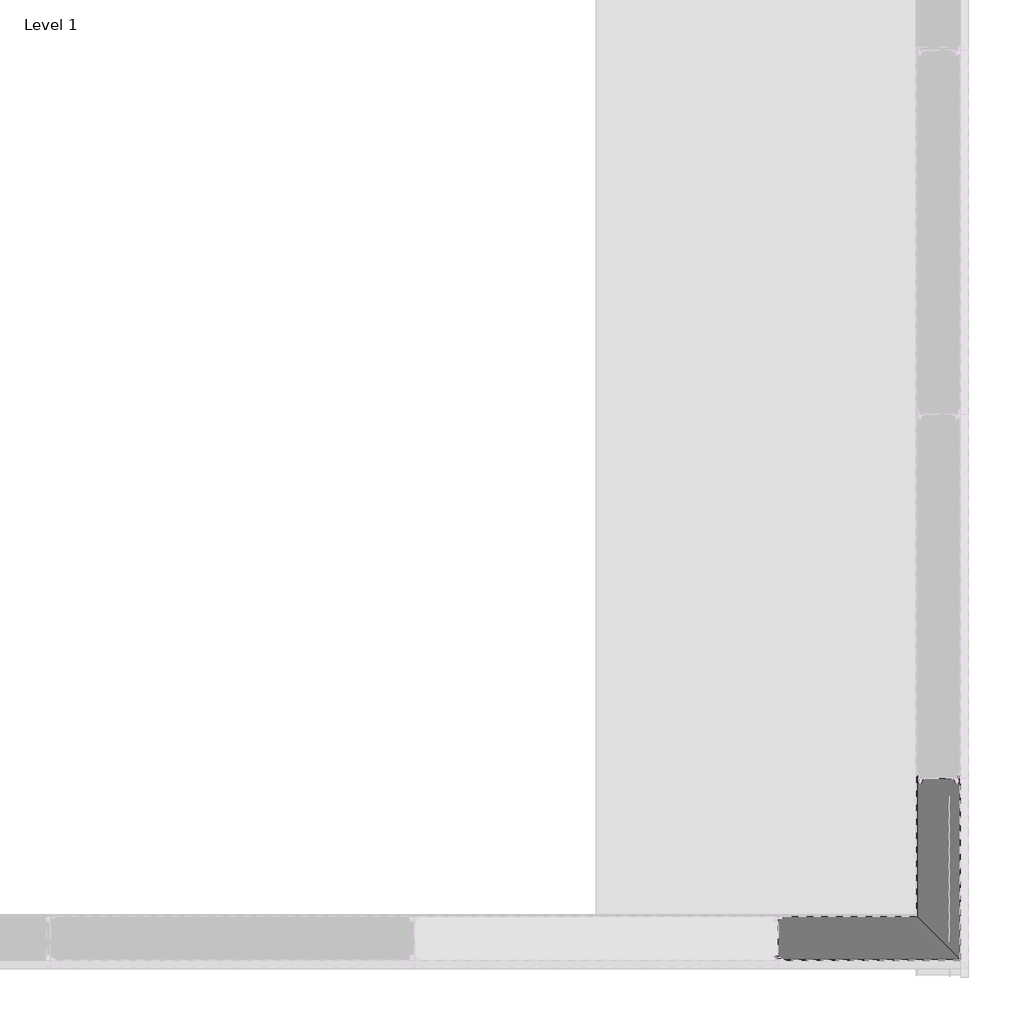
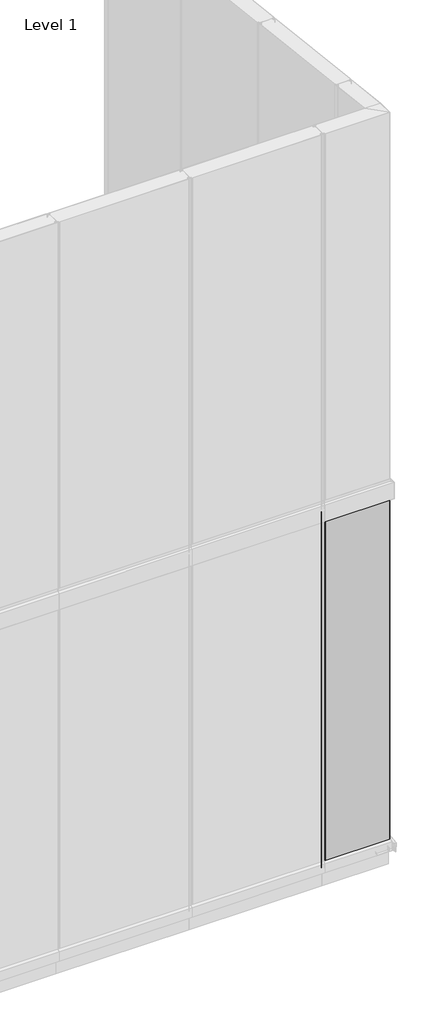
# One storey, part 5 of 16: 1 plate.
"""IFC4 building model written with IfcOpenShell, lengths in millimetres."""

from ifc_helpers import new_model, si_unit, point, frame, frame_2d, origin, place, context, project, spatial, polyline, circle_curve, ellipse_curve, trimmed, segment, composite_curve, outline, extrude, element, save
from ifc_brep_helpers import plane_surface, cylinder_surface, revolved_surface, advanced_brep

model = new_model("IFC4")

# Units and contexts
model_context = context("Model", 3, world=origin())
ifc_project = project(units=[si_unit("LENGTHUNIT", "METRE", prefix="MILLI")], contexts=[model_context])

# Site, building, storey
site = spatial("IfcSite", under=ifc_project)
building = spatial("IfcBuilding", under=site)
storey = spatial("IfcBuildingStorey", under=building, Name="Level 1", Elevation=0.0)

# Plate
placement = place(None, origin())
element("IfcPlate", 1, ObjectType="TR_C_V_FTV_Corner_Long_B : 120/RAL9006/RAL9002", at=placement, inside=storey, context=model_context, shape_type="SolidModel", body=[
    extrude(outline(composite_curve([segment(polyline([(-493.9155071, 4072.7199449), (-493.9155071, 4068.6069121), (-494.7155071, 4068.6069121), (-494.7155071, 4072.7199449)]), True, "CONTINUOUS"), segment(trimmed(circle_curve(frame_2d((-498.4655071, 4072.7199449)), 3.75), [point((-494.7155071, 4072.7199449))], [point((-497.8143265, 4076.412974))], True, "CARTESIAN"), True, "CONTINUOUS"), segment(polyline([(-497.8143265, 4076.412974), (-502.0298637, 4077.1562869)]), True, "CONTINUOUS"), segment(trimmed(circle_curve(frame_2d((-501.4655071, 4080.3569121)), 3.25), [point((-502.0298637, 4077.1562869))], [point((-501.4655071, 4083.6069121))], False, "CARTESIAN"), True, "CONTINUOUS"), segment(polyline([(-501.4655071, 4083.6069121), (-486.7155071, 4083.6069121)]), True, "CONTINUOUS"), segment(trimmed(circle_curve(frame_2d((-486.7155071, 4086.1069121)), 2.5), [point((-486.7155071, 4083.6069121))], [point((-484.9477402, 4084.3391452))], True, "CARTESIAN"), True, "CONTINUOUS"), segment(polyline([(-484.9477402, 4084.3391452), (-480.5586529, 4088.7282325)]), True, "CONTINUOUS"), segment(trimmed(circle_curve(frame_2d((-478.4373325, 4086.6069121)), 3.0), [point((-480.5586529, 4088.7282325))], [point((-478.4373325, 4089.6069121))], False, "CARTESIAN"), True, "CONTINUOUS"), segment(polyline([(-478.4373325, 4089.6069121), (-114.1155057, 4089.6069121), (-113.3155057, 4088.8069121), (-478.4373325, 4088.8069121)]), True, "CONTINUOUS"), segment(trimmed(circle_curve(frame_2d((-478.4373325, 4086.6069121)), 2.2), [point((-478.4373325, 4088.8069121))], [point((-479.9929674, 4088.162547))], True, "CARTESIAN"), True, "CONTINUOUS"), segment(polyline([(-479.9929674, 4088.162547), (-484.3820547, 4083.7734598)]), True, "CONTINUOUS"), segment(trimmed(circle_curve(frame_2d((-486.7155071, 4086.1069121)), 3.3), [point((-484.3820547, 4083.7734598))], [point((-486.7155071, 4082.8069121))], False, "CARTESIAN"), True, "CONTINUOUS"), segment(polyline([(-486.7155071, 4082.8069121), (-501.4655071, 4082.8069121)]), True, "CONTINUOUS"), segment(trimmed(circle_curve(frame_2d((-501.4655071, 4080.3569121)), 2.45), [point((-501.4655071, 4082.8069121))], [point((-501.8909452, 4077.9441331))], True, "CARTESIAN"), True, "CONTINUOUS"), segment(polyline([(-501.8909452, 4077.9441331), (-497.6754079, 4077.2008202)]), True, "CONTINUOUS"), segment(trimmed(circle_curve(frame_2d((-498.4655071, 4072.7199449)), 4.55), [point((-497.6754079, 4077.2008202))], [point((-493.9155071, 4072.7199449))], False, "CARTESIAN"), True, "CONTINUOUS")], self_intersect=False)), frame((0.0, 0.0, 150.0), z_axis=(0.0, 0.0, 1.0), x_axis=(1.0, 0.0, 0.0)), (0.0, 0.0, 1.0), 2830.0),
    extrude(outline(composite_curve([segment(trimmed(circle_curve(frame_2d((-498.465507, 3986.4938794)), 4.55), [point((-493.915507, 3986.4938794))], [point((-497.6754078, 3982.0130041))], False, "CARTESIAN"), True, "CONTINUOUS"), segment(polyline([(-497.6754078, 3982.0130041), (-501.890945, 3981.2696911)]), True, "CONTINUOUS"), segment(trimmed(circle_curve(frame_2d((-501.465507, 3978.8569121)), 2.45), [point((-501.890945, 3981.2696911))], [point((-501.465507, 3976.4069121))], True, "CARTESIAN"), True, "CONTINUOUS"), segment(polyline([(-501.465507, 3976.4069121), (-486.715507, 3976.4069121)]), True, "CONTINUOUS"), segment(trimmed(circle_curve(frame_2d((-486.715507, 3973.1069121)), 3.3), [point((-486.715507, 3976.4069121))], [point((-484.3820546, 3975.4403645))], False, "CARTESIAN"), True, "CONTINUOUS"), segment(polyline([(-484.3820546, 3975.4403645), (-479.9929673, 3971.0512772)]), True, "CONTINUOUS"), segment(trimmed(circle_curve(frame_2d((-478.4373324, 3972.6069121)), 2.2), [point((-479.9929673, 3971.0512772))], [point((-478.4373324, 3970.4069121))], True, "CARTESIAN"), True, "CONTINUOUS"), segment(polyline([(-478.4373324, 3970.4069121), (5.0844943, 3970.4069121), (5.8844942, 3969.6069121), (-478.4373324, 3969.6069121)]), True, "CONTINUOUS"), segment(trimmed(circle_curve(frame_2d((-478.4373324, 3972.6069121)), 3.0), [point((-478.4373324, 3969.6069121))], [point((-480.5586527, 3970.4855918))], False, "CARTESIAN"), True, "CONTINUOUS"), segment(polyline([(-480.5586527, 3970.4855918), (-484.94774, 3974.8746791)]), True, "CONTINUOUS"), segment(trimmed(circle_curve(frame_2d((-486.715507, 3973.1069121)), 2.5), [point((-484.94774, 3974.8746791))], [point((-486.715507, 3975.6069121))], True, "CARTESIAN"), True, "CONTINUOUS"), segment(polyline([(-486.715507, 3975.6069121), (-501.465507, 3975.6069121)]), True, "CONTINUOUS"), segment(trimmed(circle_curve(frame_2d((-501.465507, 3978.8569121)), 3.25), [point((-501.465507, 3975.6069121))], [point((-502.0298635, 3982.0575373))], False, "CARTESIAN"), True, "CONTINUOUS"), segment(polyline([(-502.0298635, 3982.0575373), (-497.8143263, 3982.8008503)]), True, "CONTINUOUS"), segment(trimmed(circle_curve(frame_2d((-498.465507, 3986.4938794)), 3.75), [point((-497.8143263, 3982.8008503))], [point((-494.715507, 3986.4938794))], True, "CARTESIAN"), True, "CONTINUOUS"), segment(polyline([(-494.715507, 3986.4938794), (-494.715507, 3990.6069121), (-493.915507, 3990.6069121), (-493.915507, 3986.4938794)]), True, "CONTINUOUS")], self_intersect=False)), frame((0.0, 0.0, 150.0), z_axis=(0.0, 0.0, 1.0), x_axis=(1.0, 0.0, 0.0)), (0.0, 0.0, 1.0), 2830.0),
    advanced_brep(
    [(-11.7229468, 4468.006911, 2980.0), (-15.1155057, 4468.006911, 2980.0), (-15.1155057, 4467.206911, 2980.0), (-11.7229468, 4467.206911, 2980.0), (-8.8177639, 4464.7691731, 2980.0), (-7.7509386, 4458.7189062, 2980.0), (0.6844943, 4459.456911, 2980.0), (0.6844943, 4477.056911, 2980.0), (2.6476671, 4477.8700838, 2980.0), (4.5133526, 4476.0043983, 2980.0), (5.0844943, 4474.6255401, 2980.0), (5.0844943, 3970.4069121, 2980.0), (5.8844943, 3969.606912, 2980.0), (5.8844943, 4474.6255401, 2980.0), (5.079038, 4476.5700838, 2980.0), (3.2133526, 4478.4357692, 2980.0), (-0.1155057, 4477.056911, 2980.0), (-0.1155057, 4459.456911, 2980.0), (-6.9630924, 4458.8578247, 2980.0), (-8.0299177, 4464.9080916, 2980.0), (5.8844943, 3969.606912, 150.0), (5.0844943, 3970.4069121, 150.0), (5.0844943, 4089.6069121, 150.0), (5.8844943, 4089.6069121, 150.0), (-11.7229468, 4468.006911, 193.9999999), (-15.1155057, 4468.006911, 193.9999999), (-15.1155057, 4467.206911, 193.9069766), (-11.7229468, 4467.206911, 193.9069766), (-8.8177639, 4464.7691731, 193.6235187), (-7.7509386, 4458.7189062, 192.9199993), (0.6844943, 4459.456911, 193.0058138), (0.6844943, 4477.056911, 195.0523254), (2.6476671, 4477.8700838, 195.1468804), (4.5133526, 4476.0043983, 194.9299403), (5.0844943, 4474.6255401, 194.7696079), (5.8844943, 4474.6255401, 194.7696079), (5.079038, 4476.5700838, 194.9957176), (3.2133526, 4478.4357692, 195.2126578), (-0.1155057, 4477.056911, 195.0523254), (-0.1155057, 4459.456911, 193.0058138), (-6.9630924, 4458.8578247, 192.9361526), (-8.0299177, 4464.9080916, 193.639672)],
    [
        (0, 1),
        (1, 2),
        (2, 3),
        (3, 4, circle_curve(frame((-11.7229468, 4464.256911, 2980.0), z_axis=(0.0, 0.0, -1.0), x_axis=(0.0, 1.0, 0.0)), 2.95)),
        (4, 5),
        (5, 6, circle_curve(frame((-3.5655057, 4459.456911, 2980.0), z_axis=(0.0, 0.0, 1.0), x_axis=(0.0, 1.0, 0.0)), 4.25)),
        (6, 7),
        (7, 8, circle_curve(frame((1.8344943, 4477.056911, 2980.0), z_axis=(0.0, 0.0, -1.0), x_axis=(0.0, 1.0, 0.0)), 1.15)),
        (8, 9),
        (9, 10, circle_curve(frame((3.1344943, 4474.6255401, 2980.0), z_axis=(0.0, 0.0, -1.0), x_axis=(0.0, 1.0, 0.0)), 1.95)),
        (10, 11),
        (11, 12),
        (12, 13),
        (13, 14, circle_curve(frame((3.1344943, 4474.6255401, 2980.0), z_axis=(0.0, 0.0, 1.0), x_axis=(0.0, 1.0, 0.0)), 2.75)),
        (14, 15),
        (15, 16, circle_curve(frame((1.8344943, 4477.056911, 2980.0), z_axis=(0.0, 0.0, 1.0), x_axis=(0.0, 1.0, 0.0)), 1.95)),
        (16, 17),
        (17, 18, circle_curve(frame((-3.5655057, 4459.456911, 2980.0), z_axis=(0.0, 0.0, -1.0), x_axis=(0.0, 1.0, 0.0)), 3.45)),
        (18, 19),
        (19, 0, circle_curve(frame((-11.7229468, 4464.256911, 2980.0), z_axis=(0.0, 0.0, 1.0), x_axis=(0.0, 1.0, 0.0)), 3.75)),
        (20, 21),
        (21, 22),
        (22, 23),
        (23, 20),
        (0, 24),
        (24, 25),
        (25, 1),
        (25, 26),
        (26, 2),
        (26, 27),
        (27, 3),
        (27, 28, ellipse_curve(frame((-11.7229468, 4464.256911, 193.5639534), z_axis=(0.0, 0.11550085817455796, -0.9933073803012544), x_axis=(0.0, -0.9933073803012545, -0.11550085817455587)), 2.9698763, 2.95)),
        (28, 4),
        (28, 29),
        (29, 5),
        (29, 30, ellipse_curve(frame((-3.5655057, 4459.456911, 193.0058138), z_axis=(0.0, -0.11550085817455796, 0.9933073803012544), x_axis=(0.0, 0.9933073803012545, 0.11550085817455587)), 4.2786353, 4.25)),
        (30, 6),
        (30, 31),
        (31, 7),
        (31, 32, ellipse_curve(frame((1.8344943, 4477.056911, 195.0523254), z_axis=(0.0, 0.11550085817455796, -0.9933073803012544), x_axis=(0.0, -0.9933073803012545, -0.11550085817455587)), 1.1577484, 1.15)),
        (32, 8),
        (32, 33),
        (33, 9),
        (33, 34, ellipse_curve(frame((3.1344943, 4474.6255401, 194.7696079), z_axis=(0.0, 0.11550085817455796, -0.9933073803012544), x_axis=(0.0, -0.9933073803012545, -0.11550085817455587)), 1.9631385, 1.95)),
        (34, 10),
        (34, 22),
        (21, 11),
        (20, 12),
        (23, 35),
        (35, 13),
        (35, 36, ellipse_curve(frame((3.1344943, 4474.6255401, 194.7696079), z_axis=(0.0, -0.11550085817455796, 0.9933073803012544), x_axis=(0.0, 0.9933073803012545, 0.11550085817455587)), 2.7685287, 2.75)),
        (36, 14),
        (36, 37),
        (37, 15),
        (37, 38, ellipse_curve(frame((1.8344943, 4477.056911, 195.0523254), z_axis=(0.0, -0.11550085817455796, 0.9933073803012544), x_axis=(0.0, 0.9933073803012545, 0.11550085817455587)), 1.9631385, 1.95)),
        (38, 16),
        (38, 39),
        (39, 17),
        (39, 40, ellipse_curve(frame((-3.5655057, 4459.456911, 193.0058138), z_axis=(0.0, 0.11550085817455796, -0.9933073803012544), x_axis=(0.0, -0.9933073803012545, -0.11550085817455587)), 3.4732451, 3.45)),
        (40, 18),
        (40, 41),
        (41, 19),
        (41, 24, ellipse_curve(frame((-11.7229468, 4464.256911, 193.5639534), z_axis=(0.0, -0.11550085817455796, 0.9933073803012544), x_axis=(0.0, 0.9933073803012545, 0.11550085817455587)), 3.7752664, 3.75)),
    ],
    [
        plane_surface(frame((-15.1155057, 4468.006911, 2980.0), z_axis=(0.0, 0.0, 1.0), x_axis=(-1.0, 0.0, 0.0))),
        plane_surface(frame((-15.1155057, 4468.006911, 150.0), z_axis=(0.0, 0.0, -1.0), x_axis=(1.0, 0.0, 0.0))),
        plane_surface(frame((-11.7229468, 4468.006911, 2980.0), z_axis=(0.0, 1.0, 0.0), x_axis=(0.0, 0.0, -1.0))),
        plane_surface(frame((-15.1155057, 4468.006911, 2980.0), z_axis=(-1.0, 0.0, 0.0), x_axis=(0.0, 0.0, -1.0))),
        plane_surface(frame((-15.1155057, 4467.206911, 2980.0), z_axis=(0.0, -1.0, 0.0), x_axis=(0.0, 0.0, -1.0))),
        revolved_surface(polyline([(-11.7229468, 4467.206911, 193.22093013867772), (-11.7229468, 4467.206911, 2980.0)]), (-11.7229468, 4464.256911, 150.0), (0.0, 0.0, -1.0)),
        plane_surface(frame((-8.8177639, 4464.7691731, 2980.0), z_axis=(-0.9848077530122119, -0.173648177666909, 0.0), x_axis=(0.0, 0.0, -1.0))),
        cylinder_surface(frame((-3.5655057, 4459.456911, 150.0), z_axis=(0.0, 0.0, 1.0), x_axis=(0.0, 1.0, 0.0)), 4.25),
        plane_surface(frame((0.6844943, 4459.456911, 2980.0), z_axis=(1.0, 0.0, 0.0), x_axis=(0.0, 0.0, -1.0))),
        revolved_surface(polyline([(1.8344943, 4478.206910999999, 194.91860446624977), (1.8344943, 4478.206910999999, 2980.0)]), (1.8344943, 4477.056911, 150.0), (0.0, 0.0, -1.0)),
        plane_surface(frame((2.6476671, 4477.8700838, 2980.0), z_axis=(-0.7071067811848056, -0.7071067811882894, 0.0), x_axis=(0.0, 0.0, -1.0))),
        revolved_surface(polyline([(3.1344943, 4476.5755401, 194.5428637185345), (3.1344943, 4476.5755401, 2980.0)]), (3.1344943, 4474.6255401, 150.0), (0.0, 0.0, -1.0)),
        plane_surface(frame((5.0844943, 4474.6255401, 2980.0), z_axis=(-1.0, 0.0, 0.0), x_axis=(0.0, 0.0, -1.0))),
        plane_surface(frame((5.0844943, 3970.4069121, 2980.0), z_axis=(-0.7071068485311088, -0.7071067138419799, 0.0), x_axis=(0.0, 0.0, -1.0))),
        plane_surface(frame((5.8844943, 3969.606912, 2980.0), z_axis=(1.0, 0.0, 0.0), x_axis=(0.0, 0.0, -1.0))),
        cylinder_surface(frame((3.1344943, 4474.6255401, 150.0), z_axis=(0.0, 0.0, 1.0), x_axis=(0.0, 1.0, 0.0)), 2.75),
        plane_surface(frame((5.079038, 4476.5700838, 2980.0), z_axis=(0.7071067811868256, 0.7071067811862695, 0.0), x_axis=(0.0, 0.0, -1.0))),
        cylinder_surface(frame((1.8344943, 4477.056911, 150.0), z_axis=(0.0, 0.0, 1.0), x_axis=(0.0, 1.0, 0.0)), 1.95),
        plane_surface(frame((-0.1155057, 4477.056911, 2980.0), z_axis=(-1.0, 0.0, 0.0), x_axis=(0.0, 0.0, -1.0))),
        revolved_surface(polyline([(-3.5655057, 4462.906911, 192.60465101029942), (-3.5655057, 4462.906911, 2980.0)]), (-3.5655057, 4459.456911, 150.0), (0.0, 0.0, -1.0)),
        plane_surface(frame((-6.9630924, 4458.8578247, 2980.0), z_axis=(0.9848077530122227, 0.17364817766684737, 0.0), x_axis=(0.0, 0.0, -1.0))),
        cylinder_surface(frame((-11.7229468, 4464.256911, 150.0), z_axis=(0.0, 0.0, 1.0), x_axis=(0.0, 1.0, 0.0)), 3.75),
        plane_surface(frame((5.8844943, 6239.6069121, 400.0), z_axis=(0.0, 0.11550085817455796, -0.9933073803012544), x_axis=(0.0, 0.9933073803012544, 0.11550085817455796))),
    ],
    [
        (0, [[1, 2, 3, 4, 5, 6, 7, 8, 9, 10, 11, 12, 13, 14, 15, 16, 17, 18, 19, 20]]),
        (1, [[21, 22, 23, 24]]),
        (2, [[-1, 25, 26, 27]]),
        (3, [[-2, -27, 28, 29]]),
        (4, [[-3, -29, 30, 31]]),
        (5, [[-4, -31, 32, 33]]),
        (6, [[-5, -33, 34, 35]]),
        (7, [[-6, -35, 36, 37]]),
        (8, [[-7, -37, 38, 39]]),
        (9, [[-8, -39, 40, 41]]),
        (10, [[-9, -41, 42, 43]]),
        (11, [[-10, -43, 44, 45]]),
        (12, [[-11, -45, 46, -22, 47]]),
        (13, [[-12, -47, -21, 48]]),
        (14, [[-13, -48, -24, 49, 50]]),
        (15, [[-14, -50, 51, 52]]),
        (16, [[-15, -52, 53, 54]]),
        (17, [[-16, -54, 55, 56]]),
        (18, [[-17, -56, 57, 58]]),
        (19, [[-18, -58, 59, 60]]),
        (20, [[-19, -60, 61, 62]]),
        (21, [[-20, -62, 63, -25]]),
        (22, [[-23, -46, -44, -42, -40, -38, -36, -34, -32, -30, -28, -26, -63, -61, -59, -57, -55, -53, -51, -49]]),
    ],
),
    advanced_brep(
    [(-96.5080645, 4468.006911, 2980.0), (-100.2010936, 4464.9080916, 2980.0), (-101.2679189, 4458.8578247, 2980.0), (-108.1155057, 4459.456911, 2980.0), (-108.1155057, 4477.056911, 2980.0), (-111.4443639, 4478.4357692, 2980.0), (-113.3100493, 4476.5700838, 2980.0), (-114.1155057, 4474.6255401, 2980.0), (-114.1155057, 4089.6069121, 2980.0), (-113.3155057, 4088.8069121, 2980.0), (-113.3155057, 4474.6255401, 2980.0), (-112.7443639, 4476.0043983, 2980.0), (-110.8786785, 4477.8700838, 2980.0), (-108.9155057, 4477.056911, 2980.0), (-108.9155057, 4459.456911, 2980.0), (-100.4800727, 4458.7189062, 2980.0), (-99.4132474, 4464.7691731, 2980.0), (-96.5080645, 4467.206911, 2980.0), (-93.1155057, 4467.206911, 2980.0), (-93.1155057, 4468.006911, 2980.0), (-113.3155057, 4088.8069121, 150.0), (-114.1155057, 4089.6069121, 150.0), (-113.3155057, 4089.6069121, 150.0), (-96.5080645, 4468.006911, 193.9999999), (-100.2010936, 4464.9080916, 193.639672), (-101.2679189, 4458.8578247, 192.9361526), (-108.1155057, 4459.456911, 193.0058138), (-108.1155057, 4477.056911, 195.0523254), (-111.4443639, 4478.4357692, 195.2126578), (-113.3100493, 4476.5700838, 194.9957176), (-114.1155057, 4474.6255401, 194.7696079), (-113.3155057, 4474.6255401, 194.7696079), (-112.7443639, 4476.0043983, 194.9299403), (-110.8786785, 4477.8700838, 195.1468804), (-108.9155057, 4477.056911, 195.0523254), (-108.9155057, 4459.456911, 193.0058138), (-100.4800727, 4458.7189062, 192.9199993), (-99.4132474, 4464.7691731, 193.6235187), (-96.5080645, 4467.206911, 193.9069766), (-93.1155057, 4467.206911, 193.9069766), (-93.1155057, 4468.006911, 193.9999999)],
    [
        (0, 1, circle_curve(frame((-96.5080645, 4464.256911, 2980.0), z_axis=(0.0, 0.0, 1.0), x_axis=(0.0, 1.0, 0.0)), 3.75)),
        (1, 2),
        (2, 3, circle_curve(frame((-104.6655057, 4459.456911, 2980.0), z_axis=(0.0, 0.0, -1.0), x_axis=(0.0, 1.0, 0.0)), 3.45)),
        (3, 4),
        (4, 5, circle_curve(frame((-110.0655057, 4477.056911, 2980.0), z_axis=(0.0, 0.0, 1.0), x_axis=(0.0, 1.0, 0.0)), 1.95)),
        (5, 6),
        (6, 7, circle_curve(frame((-111.3655057, 4474.6255401, 2980.0), z_axis=(0.0, 0.0, 1.0), x_axis=(0.0, 1.0, 0.0)), 2.75)),
        (7, 8),
        (8, 9),
        (9, 10),
        (10, 11, circle_curve(frame((-111.3655057, 4474.6255401, 2980.0), z_axis=(0.0, 0.0, -1.0), x_axis=(0.0, 1.0, 0.0)), 1.95)),
        (11, 12),
        (12, 13, circle_curve(frame((-110.0655057, 4477.056911, 2980.0), z_axis=(0.0, 0.0, -1.0), x_axis=(0.0, 1.0, 0.0)), 1.15)),
        (13, 14),
        (14, 15, circle_curve(frame((-104.6655057, 4459.456911, 2980.0), z_axis=(0.0, 0.0, 1.0), x_axis=(0.0, 1.0, 0.0)), 4.25)),
        (15, 16),
        (16, 17, circle_curve(frame((-96.5080645, 4464.256911, 2980.0), z_axis=(0.0, 0.0, -1.0), x_axis=(0.0, 1.0, 0.0)), 2.95)),
        (17, 18),
        (18, 19),
        (19, 0),
        (20, 21),
        (21, 22),
        (22, 20),
        (0, 23),
        (23, 24, ellipse_curve(frame((-96.5080645, 4464.256911, 193.5639534), z_axis=(0.0, -0.11550085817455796, 0.9933073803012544), x_axis=(0.0, 0.9933073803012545, 0.11550085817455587)), 3.7752664, 3.75)),
        (24, 1),
        (24, 25),
        (25, 2),
        (25, 26, ellipse_curve(frame((-104.6655057, 4459.456911, 193.0058138), z_axis=(0.0, 0.11550085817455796, -0.9933073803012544), x_axis=(0.0, -0.9933073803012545, -0.11550085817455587)), 3.4732451, 3.45)),
        (26, 3),
        (26, 27),
        (27, 4),
        (27, 28, ellipse_curve(frame((-110.0655057, 4477.056911, 195.0523254), z_axis=(0.0, -0.11550085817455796, 0.9933073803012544), x_axis=(0.0, 0.9933073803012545, 0.11550085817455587)), 1.9631385, 1.95)),
        (28, 5),
        (28, 29),
        (29, 6),
        (29, 30, ellipse_curve(frame((-111.3655057, 4474.6255401, 194.7696079), z_axis=(0.0, -0.11550085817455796, 0.9933073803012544), x_axis=(0.0, 0.9933073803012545, 0.11550085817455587)), 2.7685287, 2.75)),
        (30, 7),
        (30, 21),
        (21, 8),
        (20, 9),
        (22, 31),
        (31, 10),
        (31, 32, ellipse_curve(frame((-111.3655057, 4474.6255401, 194.7696079), z_axis=(0.0, 0.11550085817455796, -0.9933073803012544), x_axis=(0.0, -0.9933073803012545, -0.11550085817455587)), 1.9631385, 1.95)),
        (32, 11),
        (32, 33),
        (33, 12),
        (33, 34, ellipse_curve(frame((-110.0655057, 4477.056911, 195.0523254), z_axis=(0.0, 0.11550085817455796, -0.9933073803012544), x_axis=(0.0, -0.9933073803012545, -0.11550085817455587)), 1.1577484, 1.15)),
        (34, 13),
        (34, 35),
        (35, 14),
        (35, 36, ellipse_curve(frame((-104.6655057, 4459.456911, 193.0058138), z_axis=(0.0, -0.11550085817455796, 0.9933073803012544), x_axis=(0.0, 0.9933073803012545, 0.11550085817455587)), 4.2786353, 4.25)),
        (36, 15),
        (36, 37),
        (37, 16),
        (37, 38, ellipse_curve(frame((-96.5080645, 4464.256911, 193.5639534), z_axis=(0.0, 0.11550085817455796, -0.9933073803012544), x_axis=(0.0, -0.9933073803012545, -0.11550085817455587)), 2.9698763, 2.95)),
        (38, 17),
        (38, 39),
        (39, 18),
        (39, 40),
        (40, 19),
        (40, 23),
    ],
    [
        plane_surface(frame((-96.5080645, 4468.006911, 2980.0), z_axis=(0.0, 0.0, 1.0), x_axis=(-1.0, 0.0, 0.0))),
        plane_surface(frame((-96.5080645, 4468.006911, 150.0), z_axis=(0.0, 0.0, -1.0), x_axis=(1.0, 0.0, 0.0))),
        cylinder_surface(frame((-96.5080645, 4464.256911, 150.0), z_axis=(0.0, 0.0, 1.0), x_axis=(0.0, 1.0, 0.0)), 3.75),
        plane_surface(frame((-100.2010936, 4464.9080916, 2980.0), z_axis=(-0.9848077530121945, 0.17364817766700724, 0.0), x_axis=(0.0, 0.0, -1.0))),
        revolved_surface(polyline([(-104.6655057, 4462.906911, 192.60465101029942), (-104.6655057, 4462.906911, 2980.0)]), (-104.6655057, 4459.456911, 150.0), (0.0, 0.0, -1.0)),
        plane_surface(frame((-108.1155057, 4459.456911, 2980.0), z_axis=(1.0, 0.0, 0.0), x_axis=(0.0, 0.0, -1.0))),
        cylinder_surface(frame((-110.0655057, 4477.056911, 150.0), z_axis=(0.0, 0.0, 1.0), x_axis=(0.0, 1.0, 0.0)), 1.95),
        plane_surface(frame((-111.4443639, 4478.4357692, 2980.0), z_axis=(-0.707106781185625, 0.7071067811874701, 0.0), x_axis=(0.0, 0.0, -1.0))),
        cylinder_surface(frame((-111.3655057, 4474.6255401, 150.0), z_axis=(0.0, 0.0, 1.0), x_axis=(0.0, 1.0, 0.0)), 2.75),
        plane_surface(frame((-114.1155057, 4474.6255401, 2980.0), z_axis=(-1.0, 0.0, 0.0), x_axis=(0.0, 0.0, -1.0))),
        plane_surface(frame((-114.1155057, 4089.6069121, 2980.0), z_axis=(-0.7071067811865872, -0.7071067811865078, 0.0), x_axis=(0.0, 0.0, -1.0))),
        plane_surface(frame((-113.3155057, 4088.8069121, 2980.0), z_axis=(1.0, 0.0, 0.0), x_axis=(0.0, 0.0, -1.0))),
        revolved_surface(polyline([(-111.3655057, 4476.5755401, 194.5428637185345), (-111.3655057, 4476.5755401, 2980.0)]), (-111.3655057, 4474.6255401, 150.0), (0.0, 0.0, -1.0)),
        plane_surface(frame((-112.7443639, 4476.0043983, 2980.0), z_axis=(0.7071067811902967, -0.7071067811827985, 0.0), x_axis=(0.0, 0.0, -1.0))),
        revolved_surface(polyline([(-110.0655057, 4478.206910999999, 194.91860446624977), (-110.0655057, 4478.206910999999, 2980.0)]), (-110.0655057, 4477.056911, 150.0), (0.0, 0.0, -1.0)),
        plane_surface(frame((-108.9155057, 4477.056911, 2980.0), z_axis=(-1.0, 0.0, 0.0), x_axis=(0.0, 0.0, -1.0))),
        cylinder_surface(frame((-104.6655057, 4459.456911, 150.0), z_axis=(0.0, 0.0, 1.0), x_axis=(0.0, 1.0, 0.0)), 4.25),
        plane_surface(frame((-100.4800727, 4458.7189062, 2980.0), z_axis=(0.9848077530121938, -0.17364817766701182, 0.0), x_axis=(0.0, 0.0, -1.0))),
        revolved_surface(polyline([(-96.5080645, 4467.206911, 193.22093013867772), (-96.5080645, 4467.206911, 2980.0)]), (-96.5080645, 4464.256911, 150.0), (0.0, 0.0, -1.0)),
        plane_surface(frame((-96.5080645, 4467.206911, 2980.0), z_axis=(0.0, -1.0, 0.0), x_axis=(0.0, 0.0, -1.0))),
        plane_surface(frame((-93.1155057, 4467.206911, 2980.0), z_axis=(1.0, 0.0, 0.0), x_axis=(0.0, 0.0, -1.0))),
        plane_surface(frame((-93.1155057, 4468.006911, 2980.0), z_axis=(0.0, 1.0, 0.0), x_axis=(0.0, 0.0, -1.0))),
        plane_surface(frame((5.8844943, 6239.6069121, 400.0), z_axis=(0.0, 0.11550085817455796, -0.9933073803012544), x_axis=(0.0, 0.9933073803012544, 0.11550085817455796))),
    ],
    [
        (0, [[1, 2, 3, 4, 5, 6, 7, 8, 9, 10, 11, 12, 13, 14, 15, 16, 17, 18, 19, 20]]),
        (1, [[21, 22, 23]]),
        (2, [[-1, 24, 25, 26]]),
        (3, [[-2, -26, 27, 28]]),
        (4, [[-3, -28, 29, 30]]),
        (5, [[-4, -30, 31, 32]]),
        (6, [[-5, -32, 33, 34]]),
        (7, [[-6, -34, 35, 36]]),
        (8, [[-7, -36, 37, 38]]),
        (9, [[-8, -38, 39, 40]]),
        (10, [[-9, -40, -21, 41]]),
        (11, [[-10, -41, -23, 42, 43]]),
        (12, [[-11, -43, 44, 45]]),
        (13, [[-12, -45, 46, 47]]),
        (14, [[-13, -47, 48, 49]]),
        (15, [[-14, -49, 50, 51]]),
        (16, [[-15, -51, 52, 53]]),
        (17, [[-16, -53, 54, 55]]),
        (18, [[-17, -55, 56, 57]]),
        (19, [[-18, -57, 58, 59]]),
        (20, [[-19, -59, 60, 61]]),
        (21, [[-20, -61, 62, -24]]),
        (22, [[-22, -39, -37, -35, -33, -31, -29, -27, -25, -62, -60, -58, -56, -54, -52, -50, -48, -46, -44, -42]]),
    ],
),
    extrude(outline(composite_curve([segment(polyline([(-494.1155061, 3976.4069121), (-494.1155061, 4082.8069121), (-486.715507, 4082.8069121)]), True, "CONTINUOUS"), segment(trimmed(circle_curve(frame_2d((-486.715507, 4086.1069121)), 3.3), [point((-486.715507, 4082.8069121))], [point((-484.3820546, 4083.7734598))], True, "CARTESIAN"), True, "CONTINUOUS"), segment(polyline([(-484.3820546, 4083.7734598), (-479.9929673, 4088.162547)]), True, "CONTINUOUS"), segment(trimmed(circle_curve(frame_2d((-478.4373324, 4086.6069121)), 2.2), [point((-479.9929673, 4088.162547))], [point((-478.4373324, 4088.8069121))], False, "CARTESIAN"), True, "CONTINUOUS"), segment(polyline([(-478.4373324, 4088.8069121), (-113.3155057, 4088.8069121), (5.0844943, 3970.4069121), (-478.4373324, 3970.4069121)]), True, "CONTINUOUS"), segment(trimmed(circle_curve(frame_2d((-478.4373324, 3972.6069121)), 2.2), [point((-478.4373324, 3970.4069121))], [point((-479.9929673, 3971.0512772))], False, "CARTESIAN"), True, "CONTINUOUS"), segment(polyline([(-479.9929673, 3971.0512772), (-484.3820546, 3975.4403645)]), True, "CONTINUOUS"), segment(trimmed(circle_curve(frame_2d((-486.715507, 3973.1069121)), 3.3), [point((-484.3820546, 3975.4403645))], [point((-486.715507, 3976.4069121))], True, "CARTESIAN"), True, "CONTINUOUS"), segment(polyline([(-486.715507, 3976.4069121), (-494.1155061, 3976.4069121)]), True, "CONTINUOUS")], self_intersect=False)), frame((0.0, 0.0, 150.0), z_axis=(0.0, 0.0, 1.0), x_axis=(1.0, 0.0, 0.0)), (0.0, 0.0, 1.0), 2830.0),
    advanced_brep(
    [(5.0844943, 3970.4069121, 2980.0), (5.0844943, 4455.206911, 2980.0), (-3.5655057, 4455.206911, 2980.0), (-7.7509386, 4458.7189062, 2980.0), (-8.8177639, 4464.7691731, 2980.0), (-11.7229468, 4467.206911, 2980.0), (-17.8155057, 4467.206911, 2980.0), (-17.8155057, 4469.6069121, 2980.0), (-90.4155057, 4469.6069121, 2980.0), (-90.4155057, 4467.206911, 2980.0), (-96.5080645, 4467.206911, 2980.0), (-99.4132474, 4464.7691731, 2980.0), (-100.4800727, 4458.7189062, 2980.0), (-104.6655057, 4455.206911, 2980.0), (-113.3155057, 4455.206911, 2980.0), (-113.3155057, 4088.8069121, 2980.0), (5.0844943, 3970.4069121, 150.0), (-113.3155057, 4088.8069121, 150.0), (-113.3155057, 4089.6069121, 150.0), (5.0844943, 4089.6069121, 150.0), (-113.3155057, 4455.206911, 192.5116278), (5.0844943, 4455.206911, 192.5116278), (-3.5655057, 4455.206911, 192.5116278), (-7.7509386, 4458.7189062, 192.9199993), (-8.8177639, 4464.7691731, 193.6235187), (-11.7229468, 4467.206911, 193.9069766), (-17.8155057, 4467.206911, 193.9069766), (-17.8155057, 4469.6069121, 194.1860465), (-90.4155057, 4469.6069121, 194.1860465), (-90.4155057, 4467.206911, 193.9069766), (-96.5080645, 4467.206911, 193.9069766), (-99.4132474, 4464.7691731, 193.6235187), (-100.4800727, 4458.7189062, 192.9199993), (-104.6655057, 4455.206911, 192.5116278)],
    [
        (0, 1),
        (1, 2),
        (2, 3, circle_curve(frame((-3.5655057, 4459.456911, 2980.0), z_axis=(0.0, 0.0, -1.0), x_axis=(1.0, 0.0, 0.0)), 4.25)),
        (3, 4),
        (4, 5, circle_curve(frame((-11.7229468, 4464.256911, 2980.0), z_axis=(0.0, 0.0, 1.0), x_axis=(1.0, 0.0, 0.0)), 2.95)),
        (5, 6),
        (6, 7),
        (7, 8),
        (8, 9),
        (9, 10),
        (10, 11, circle_curve(frame((-96.5080645, 4464.256911, 2980.0), z_axis=(0.0, 0.0, 1.0), x_axis=(1.0, 0.0, 0.0)), 2.95)),
        (11, 12),
        (12, 13, circle_curve(frame((-104.6655057, 4459.456911, 2980.0), z_axis=(0.0, 0.0, -1.0), x_axis=(1.0, 0.0, 0.0)), 4.25)),
        (13, 14),
        (14, 15),
        (15, 0),
        (16, 17),
        (17, 18),
        (18, 19),
        (19, 16),
        (14, 20),
        (20, 18),
        (17, 15),
        (16, 0),
        (19, 21),
        (21, 1),
        (21, 22),
        (22, 2),
        (22, 23, ellipse_curve(frame((-3.5655057, 4459.456911, 193.0058138), z_axis=(0.0, 0.11550085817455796, -0.9933073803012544), x_axis=(0.0, -0.9933073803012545, -0.11550085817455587)), 4.2786353, 4.25)),
        (23, 3),
        (23, 24),
        (24, 4),
        (24, 25, ellipse_curve(frame((-11.7229468, 4464.256911, 193.5639534), z_axis=(0.0, -0.11550085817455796, 0.9933073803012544), x_axis=(0.0, 0.9933073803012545, 0.11550085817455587)), 2.9698763, 2.95)),
        (25, 5),
        (25, 26),
        (26, 6),
        (26, 27),
        (27, 7),
        (27, 28),
        (28, 8),
        (28, 29),
        (29, 9),
        (29, 30),
        (30, 10),
        (30, 31, ellipse_curve(frame((-96.5080645, 4464.256911, 193.5639534), z_axis=(0.0, -0.11550085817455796, 0.9933073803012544), x_axis=(0.0, 0.9933073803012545, 0.11550085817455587)), 2.9698763, 2.95)),
        (31, 11),
        (31, 32),
        (32, 12),
        (32, 33, ellipse_curve(frame((-104.6655057, 4459.456911, 193.0058138), z_axis=(0.0, 0.11550085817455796, -0.9933073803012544), x_axis=(0.0, -0.9933073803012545, -0.11550085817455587)), 4.2786353, 4.25)),
        (33, 13),
        (33, 20),
    ],
    [
        plane_surface(frame((5.0844943, 4455.206911, 2980.0), z_axis=(0.0, 0.0, 1.0), x_axis=(0.0, 1.0, 0.0))),
        plane_surface(frame((5.0844943, 4455.206911, 150.0), z_axis=(0.0, 0.0, -1.0), x_axis=(0.0, -1.0, 0.0))),
        plane_surface(frame((-113.3155057, 4455.206911, 2980.0), z_axis=(-1.0, 0.0, 0.0), x_axis=(0.0, 0.0, -1.0))),
        plane_surface(frame((-113.3155057, 4088.8069121, 2980.0), z_axis=(-0.7071067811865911, -0.7071067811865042, 0.0), x_axis=(0.0, 0.0, -1.0))),
        plane_surface(frame((5.0844943, 3970.4069121, 2980.0), z_axis=(1.0, 0.0, 0.0), x_axis=(0.0, 0.0, -1.0))),
        plane_surface(frame((5.0844943, 4455.206911, 2980.0), z_axis=(0.0, 1.0, 0.0), x_axis=(0.0, 0.0, -1.0))),
        revolved_surface(polyline([(0.6844942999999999, 4459.456911, 192.51162775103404), (0.6844942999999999, 4459.456911, 2980.0)]), (-3.5655057, 4459.456911, 150.0), (0.0, 0.0, -1.0)),
        plane_surface(frame((-7.7509386, 4458.7189062, 2980.0), z_axis=(0.9848077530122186, 0.1736481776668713, 0.0), x_axis=(0.0, 0.0, -1.0))),
        cylinder_surface(frame((-11.7229468, 4464.256911, 150.0), z_axis=(0.0, 0.0, 1.0), x_axis=(1.0, 0.0, 0.0)), 2.95),
        plane_surface(frame((-11.7229468, 4467.206911, 2980.0), z_axis=(0.0, 1.0, 0.0), x_axis=(0.0, 0.0, -1.0))),
        plane_surface(frame((-17.8155057, 4467.206911, 2980.0), z_axis=(1.0, 0.0, 0.0), x_axis=(0.0, 0.0, -1.0))),
        plane_surface(frame((-17.8155057, 4469.6069121, 2980.0), z_axis=(0.0, 1.0, 0.0), x_axis=(0.0, 0.0, -1.0))),
        plane_surface(frame((-90.4155057, 4469.6069121, 2980.0), z_axis=(-1.0, 0.0, 0.0), x_axis=(0.0, 0.0, -1.0))),
        plane_surface(frame((-90.4155057, 4467.206911, 2980.0), z_axis=(0.0, 1.0, 0.0), x_axis=(0.0, 0.0, -1.0))),
        cylinder_surface(frame((-96.5080645, 4464.256911, 150.0), z_axis=(0.0, 0.0, 1.0), x_axis=(1.0, 0.0, 0.0)), 2.95),
        plane_surface(frame((-99.4132474, 4464.7691731, 2980.0), z_axis=(-0.9848077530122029, 0.17364817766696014, 0.0), x_axis=(0.0, 0.0, -1.0))),
        revolved_surface(polyline([(-100.4155057, 4459.456911, 192.51162775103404), (-100.4155057, 4459.456911, 2980.0)]), (-104.6655057, 4459.456911, 150.0), (0.0, 0.0, -1.0)),
        plane_surface(frame((-104.6655057, 4455.206911, 2980.0), z_axis=(0.0, 1.0, 0.0), x_axis=(0.0, 0.0, -1.0))),
        plane_surface(frame((5.8844943, 6239.6069121, 400.0), z_axis=(0.0, 0.11550085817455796, -0.9933073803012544), x_axis=(0.0, 0.9933073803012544, 0.11550085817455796))),
    ],
    [
        (0, [[1, 2, 3, 4, 5, 6, 7, 8, 9, 10, 11, 12, 13, 14, 15, 16]]),
        (1, [[17, 18, 19, 20]]),
        (2, [[-15, 21, 22, -18, 23]]),
        (3, [[-16, -23, -17, 24]]),
        (4, [[-1, -24, -20, 25, 26]]),
        (5, [[-2, -26, 27, 28]]),
        (6, [[-3, -28, 29, 30]]),
        (7, [[-4, -30, 31, 32]]),
        (8, [[-5, -32, 33, 34]]),
        (9, [[-6, -34, 35, 36]]),
        (10, [[-7, -36, 37, 38]]),
        (11, [[-8, -38, 39, 40]]),
        (12, [[-9, -40, 41, 42]]),
        (13, [[-10, -42, 43, 44]]),
        (14, [[-11, -44, 45, 46]]),
        (15, [[-12, -46, 47, 48]]),
        (16, [[-13, -48, 49, 50]]),
        (17, [[-14, -50, 51, -21]]),
        (18, [[-19, -22, -51, -49, -47, -45, -43, -41, -39, -37, -35, -33, -31, -29, -27, -25]]),
    ],
),
])

save(model, "model.ifc")
